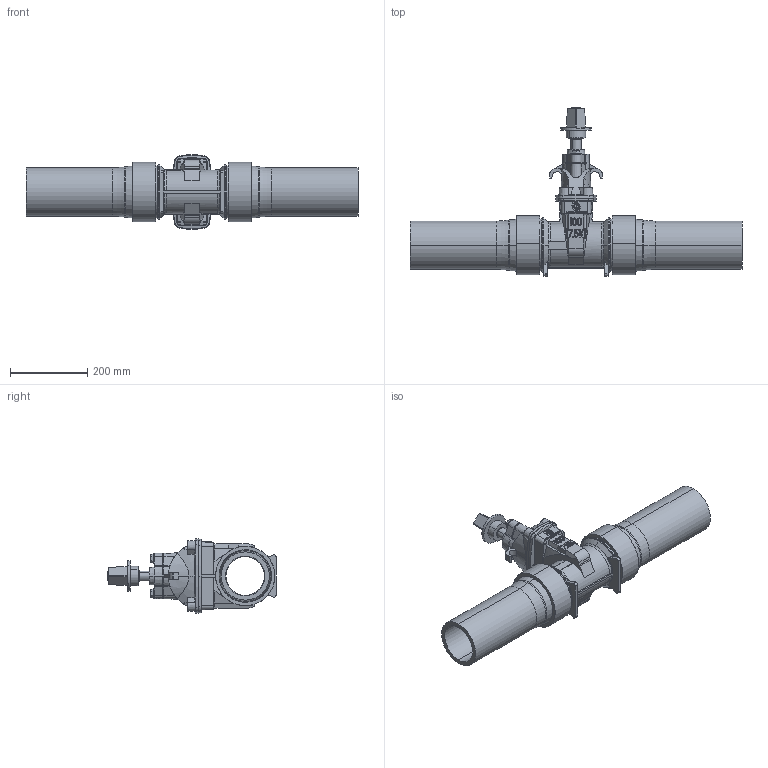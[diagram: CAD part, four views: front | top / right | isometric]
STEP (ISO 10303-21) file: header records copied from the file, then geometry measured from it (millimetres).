
FILE_DESCRIPTION (( 'STEP AP203' ), '1' );
FILE_NAME ('Y04L02101(100L).STEP', '2025-02-27T02:42:22', ( '' ), ( '' ), 'SwSTEP 2.0', 'SolidWorks 2019', '' );
FILE_SCHEMA (( 'CONFIG_CONTROL_DESIGN' ));
Length unit declared in the file: millimetre
Products named in the file (1): Y04L02101(100L)
Bounding box: 860 x 435.74 x 193.1 mm (x, y, z)
Volume: 6568705.3 mm3; surface area: 822753.3 mm2
Topology: 1 solids, 1 shells, 680 faces, 1764 edges, 1130 vertices
Faces by surface type: plane 341, cone 126, cylinder 118, torus 59, bspline 32, sphere 4
Entity records: 24769 total; most frequent: CARTESIAN_POINT 8431, ORIENTED_EDGE 3520, DIRECTION 3235, EDGE_CURVE 1760, AXIS2_PLACEMENT_3D 1140, VERTEX_POINT 1130, VECTOR 955, LINE 955
